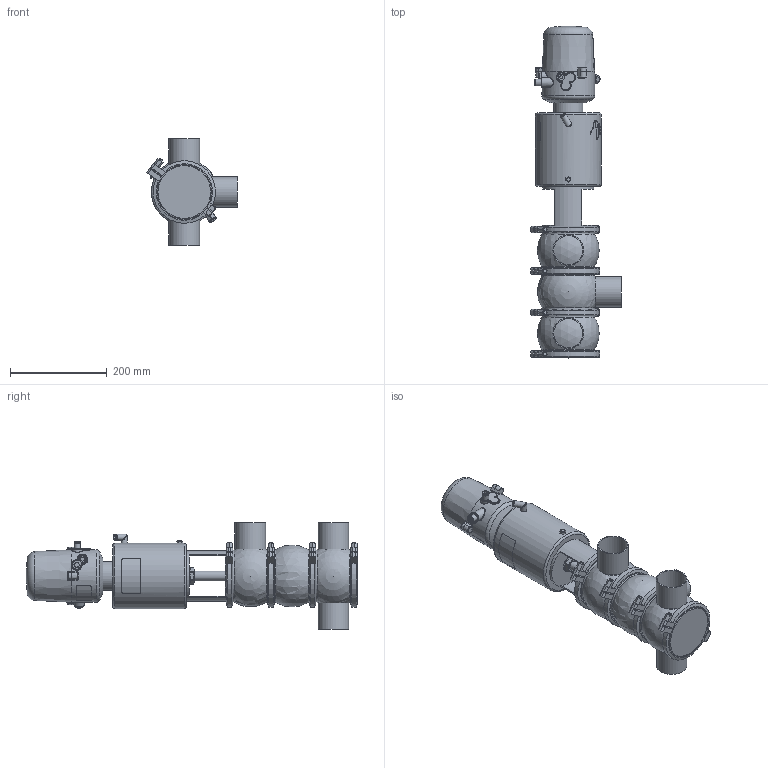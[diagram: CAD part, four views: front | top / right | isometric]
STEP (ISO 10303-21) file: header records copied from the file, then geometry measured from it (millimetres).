
FILE_DESCRIPTION (( 'STEP AP214' ), '1' );
FILE_NAME ('INNOVA L S W OD 2½ T3 AS NC & C-TOP S_10.241.16.0058.STEP', '2024-08-06T12:29:01', ( '' ), ( '' ), 'SwSTEP 2.0', 'SolidWorks 2023', '' );
FILE_SCHEMA (( 'AUTOMOTIVE_DESIGN' ));
Length unit declared in the file: millimetre
Products named in the file (9): 10.241.15.0001_DIN 065; 10.240.15.0017_Estàndard; INNOVA L S W OD 2½ T3 AS NC & C-TOP S_10.241.16.0058; 10.426.15.0001_C-TOP S - 1 EV; 10.240.15.0010_DN 065; 10.240.15.0007_OD 2½"; 10.240.15.0001_DN 065; 10.240.15.0014_T3 AS P180; 10.240.15.0006_OD 2½"
Assembly tree (12 placements, depth 2):
  INNOVA L S W OD 2½ T3 AS NC & C-TOP S_10.241.16.0058
    10.240.15.0006_OD 2½"  x2
    10.240.15.0007_OD 2½"
    10.240.15.0010_DN 065
    10.240.15.0014_T3 AS P180
    10.240.15.0017_Estàndard
    10.426.15.0001_C-TOP S - 1 EV
    10.240.15.0001_DN 065  x4
    10.241.15.0001_DIN 065
Bounding box: 188.15 x 687.5 x 220 mm (x, y, z)
Volume: 7079696.6 mm3; surface area: 627691.9 mm2
Topology: 13 solids, 13 shells, 1311 faces, 3193 edges, 2118 vertices
Faces by surface type: plane 478, cylinder 405, cone 221, bspline 160, torus 36, sphere 11
Full cylindrical faces by diameter (mm): 0.371 x17, 0.512 x16, 0.658 x16, 0.795 x16, 0.94 x15, 1.098 x15, 1.241 x13, 1.382 x13, 1.523 x11, 1.669 x10, 2.201 x1, 4 x2, 5.5 x2, 6 x2, 6.15 x1, 8 x10, 8.5 x1, 10 x1, 10.5 x1, 11 x2, 12.5 x3, 13 x2, 13.5 x2, 16 x1, 17 x3, 20 x3, 20.5 x1, 22 x2, 31 x1, 34.5 x3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
Entity records: 58121 total; most frequent: CARTESIAN_POINT 27775, ORIENTED_EDGE 4516, DIRECTION 3677, EDGE_CURVE 2258, VERTEX_POINT 1609, EDGE_LOOP 1579, AXIS2_PLACEMENT_3D 1510, FACE_OUTER_BOUND 1339
